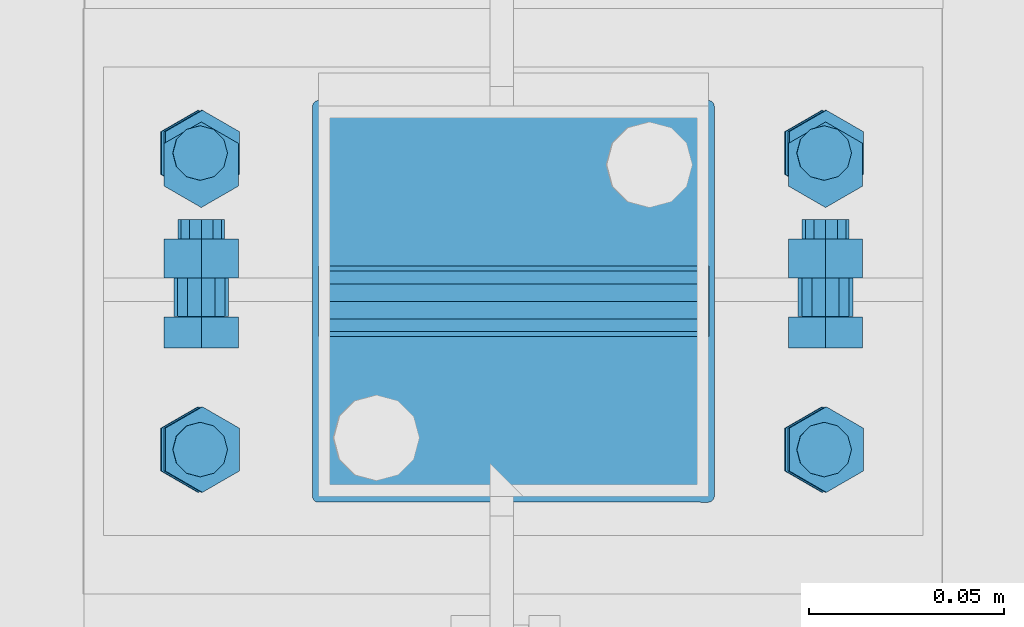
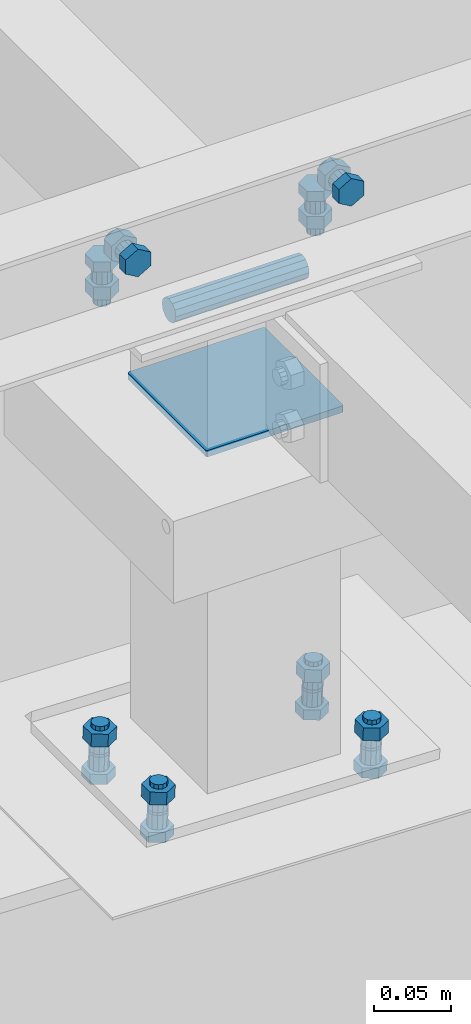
# One storey, part 235 of 3134: 6 mechanical fasteners, 4 elements without a shape of their own.
"""IFC2X3 building model written with IfcOpenShell, lengths in millimetres."""

from ifc_helpers import new_model, si_unit, frame, origin_with_axes, place, context, subcontext, project, spatial, faceted_brep, source, transform, mapped, material, type_object, element, aggregate, save


model = new_model("IFC2X3")

# Units and contexts
model_context = context("Model", 3, precision=1e-05, world=origin_with_axes())
body_context = subcontext(model_context, "Body", "Model", "MODEL_VIEW")
ifc_project = project(units=[si_unit("LENGTHUNIT", "METRE", prefix="MILLI"), si_unit("AREAUNIT", "SQUARE_METRE"), si_unit("VOLUMEUNIT", "CUBIC_METRE"), si_unit("MASSUNIT", "GRAM", prefix="KILO"), si_unit("TIMEUNIT", "SECOND"), si_unit("PLANEANGLEUNIT", "RADIAN"), si_unit("SOLIDANGLEUNIT", "STERADIAN"), si_unit("THERMODYNAMICTEMPERATUREUNIT", "DEGREE_CELSIUS"), si_unit("LUMINOUSINTENSITYUNIT", "LUMEN")], contexts=[model_context])

# Site, building, storey
site_placement = place(None, origin_with_axes())
site = spatial("IfcSite", under=ifc_project, at=site_placement, CompositionType="ELEMENT")
building_placement = place(site_placement, origin_with_axes())
building = spatial("IfcBuilding", under=site, at=building_placement, Name="Undefined", CompositionType="ELEMENT")
storey_placement = place(building_placement, origin_with_axes())
storey = spatial("IfcBuildingStorey", under=building, at=storey_placement, Name="Undefined", CompositionType="ELEMENT", Elevation=0.0)

# Assembly, mechanical fastener
assembly_1_placement = place(storey_placement, origin_with_axes())
assembly_1 = element("IfcElementAssembly", 1, at=assembly_1_placement, inside=storey, AssemblyPlace="NOTDEFINED", PredefinedType="RIGID_FRAME")
ifc_material_1 = material(Name="8.8")
mechanical_fastener_type = type_object("IfcMechanicalFastenerType", Name="Bolt assembly")
shared_shape_1 = source(origin_with_axes(), body_context, "Body", "Brep", [
    faceted_brep([(10.9696551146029, -14.0, 0.0), (5.48482755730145, -14.0, 9.5), (-5.48482755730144, -14.0, 9.5), (-10.9696551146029, -14.0, 1.34339530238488e-15), (-5.48482755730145, -14.0, -9.5), (5.48482755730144, -14.0, -9.50000000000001), (5.48482755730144, -6.0, -9.50000000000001), (-5.48482755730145, -6.0, -9.5), (-10.9696551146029, -6.0, 1.34339530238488e-15), (-5.48482755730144, -6.0, 9.5), (5.48482755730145, -6.0, 9.5), (10.9696551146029, -6.0, 0.0), (6.0, -6.0, 0.0), (5.19615242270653, -6.0, 3.00000000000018), (2.99999999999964, -6.0, 5.19615242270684), (-6.21801588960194e-13, -6.0, 6.0), (-3.00000000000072, -6.0, 5.19615242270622), (-5.19615242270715, -6.0, 2.9999999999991), (-6.0, -6.0, -1.24360317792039e-12), (-5.19615242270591, -6.0, -3.00000000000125), (-2.99999999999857, -6.0, -5.19615242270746), (1.85874342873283e-12, -6.0, -6.0), (3.00000000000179, -6.0, -5.1961524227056), (5.19615242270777, -6.0, -2.99999999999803), (5.19615242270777, 24.0, -2.99999999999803), (3.00000000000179, 24.0, -5.1961524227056), (1.85874342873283e-12, 24.0, -6.0), (-2.99999999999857, 24.0, -5.19615242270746), (-5.19615242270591, 24.0, -3.00000000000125), (-6.0, 24.0, -1.24360317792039e-12), (-5.19615242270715, 24.0, 2.9999999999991), (-3.00000000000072, 24.0, 5.19615242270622), (-6.21801588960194e-13, 24.0, 6.0), (2.99999999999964, 24.0, 5.19615242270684), (5.19615242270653, 24.0, 3.00000000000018), (6.0, 24.0, 0.0), (10.9696551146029, 6.00000000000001, 0.0), (5.48482755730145, 6.00000000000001, 9.5), (-5.48482755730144, 6.00000000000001, 9.5), (-10.9696551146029, 6.00000000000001, 1.34339530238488e-15), (-5.48482755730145, 6.00000000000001, -9.5), (5.48482755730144, 6.00000000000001, -9.50000000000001), (5.48482755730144, 16.0, -9.50000000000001), (-5.48482755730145, 16.0, -9.5), (-10.9696551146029, 16.0, 1.34339530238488e-15), (-5.48482755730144, 16.0, 9.5), (5.48482755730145, 16.0, 9.5), (10.9696551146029, 16.0, 0.0)], [[[0, 1, 2, 3, 4, 5]], [[6, 7, 8, 9, 10, 11]], [[0, 11, 10, 1]], [[1, 10, 9, 2]], [[2, 9, 8, 3]], [[3, 8, 7, 4]], [[4, 7, 6, 5]], [[5, 6, 11, 0]], [[12, 13, 14, 15, 16, 17, 18, 19, 20, 21, 22, 23]], [[24, 25, 26, 27, 28, 29, 30, 31, 32, 33, 34, 35]], [[12, 35, 34, 13]], [[13, 34, 33, 14]], [[14, 33, 32, 15]], [[15, 32, 31, 16]], [[16, 31, 30, 17]], [[17, 30, 29, 18]], [[18, 29, 28, 19]], [[19, 28, 27, 20]], [[20, 27, 26, 21]], [[21, 26, 25, 22]], [[22, 25, 24, 23]], [[23, 24, 35, 12]], [[36, 37, 38, 39, 40, 41]], [[42, 43, 44, 45, 46, 47]], [[36, 47, 46, 37]], [[37, 46, 45, 38]], [[38, 45, 44, 39]], [[39, 44, 43, 40]], [[40, 43, 42, 41]], [[41, 42, 47, 36]]]),
    faceted_brep([(7.0, -0.1, 0.0), (6.06217782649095, -0.1, 3.50000000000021), (3.49999999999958, -0.1, 6.06217782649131), (-7.25435187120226e-13, -0.1, 7.0), (-3.50000000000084, -0.1, 6.06217782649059), (-6.06217782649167, -0.1, 3.49999999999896), (-7.0, -0.1, -1.45087037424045e-12), (-6.06217782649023, -0.1, -3.50000000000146), (-3.49999999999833, -0.1, -6.06217782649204), (2.1685340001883e-12, -0.1, -7.0), (3.50000000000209, -0.1, -6.06217782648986), (6.0621778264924, -0.1, -3.4999999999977), (6.0621778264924, 6.00000000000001, -3.4999999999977), (3.50000000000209, 6.00000000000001, -6.06217782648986), (2.1685340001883e-12, 6.00000000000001, -7.0), (-3.49999999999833, 6.00000000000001, -6.06217782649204), (-6.06217782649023, 6.00000000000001, -3.50000000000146), (-7.0, 6.00000000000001, -1.45087037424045e-12), (-6.06217782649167, 6.00000000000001, 3.49999999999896), (-3.50000000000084, 6.00000000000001, 6.06217782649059), (-7.25435187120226e-13, 6.00000000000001, 7.0), (3.49999999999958, 6.00000000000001, 6.06217782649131), (6.06217782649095, 6.00000000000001, 3.50000000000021), (7.0, 6.00000000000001, 0.0), (7.0, -5.9, 0.0), (6.06217782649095, -5.9, 3.50000000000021), (3.49999999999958, -5.9, 6.06217782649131), (-7.25435187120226e-13, -5.9, 7.0), (-3.50000000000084, -5.9, 6.06217782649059), (-6.06217782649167, -5.9, 3.49999999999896), (-7.0, -5.9, -1.45087037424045e-12), (-6.06217782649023, -5.9, -3.50000000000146), (-3.49999999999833, -5.9, -6.06217782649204), (2.1685340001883e-12, -5.9, -7.0), (3.50000000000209, -5.9, -6.06217782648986), (6.0621778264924, -5.9, -3.4999999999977), (6.0621778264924, 0.0999999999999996, -3.4999999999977), (3.50000000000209, 0.0999999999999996, -6.06217782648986), (2.1685340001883e-12, 0.0999999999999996, -7.0), (-3.49999999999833, 0.0999999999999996, -6.06217782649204), (-6.06217782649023, 0.0999999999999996, -3.50000000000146), (-7.0, 0.0999999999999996, -1.45087037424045e-12), (-6.06217782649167, 0.0999999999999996, 3.49999999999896), (-3.50000000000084, 0.0999999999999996, 6.06217782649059), (-7.25435187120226e-13, 0.0999999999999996, 7.0), (3.49999999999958, 0.0999999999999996, 6.06217782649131), (6.06217782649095, 0.0999999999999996, 3.50000000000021), (7.0, 0.0999999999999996, 0.0)], [[[0, 1, 2, 3, 4, 5, 6, 7, 8, 9, 10, 11]], [[12, 13, 14, 15, 16, 17, 18, 19, 20, 21, 22, 23]], [[0, 23, 22, 1]], [[1, 22, 21, 2]], [[2, 21, 20, 3]], [[3, 20, 19, 4]], [[4, 19, 18, 5]], [[5, 18, 17, 6]], [[6, 17, 16, 7]], [[7, 16, 15, 8]], [[8, 15, 14, 9]], [[9, 14, 13, 10]], [[10, 13, 12, 11]], [[11, 12, 23, 0]], [[24, 25, 26, 27, 28, 29, 30, 31, 32, 33, 34, 35]], [[36, 37, 38, 39, 40, 41, 42, 43, 44, 45, 46, 47]], [[24, 47, 46, 25]], [[25, 46, 45, 26]], [[26, 45, 44, 27]], [[27, 44, 43, 28]], [[28, 43, 42, 29]], [[29, 42, 41, 30]], [[30, 41, 40, 31]], [[31, 40, 39, 32]], [[32, 39, 38, 33]], [[33, 38, 37, 34]], [[34, 37, 36, 35]], [[35, 36, 47, 24]]]),
])
mechanical_fastener_1_placement = place(assembly_1_placement, frame((23191.0, 55490.0, 10865.0), z_axis=(1.0, 0.0, 0.0), x_axis=(0.0, -1.0, 0.0)))
mechanical_fastener_1 = element("IfcMechanicalFastener", 2, at=mechanical_fastener_1_placement, type_object=mechanical_fastener_type, material=ifc_material_1, Name="Bolt assembly", NominalDiameter=12.0, NominalLength=30.0, context=body_context, shape_type="MappedRepresentation", body=[
    mapped(shared_shape_1, transform((0.0, -5.32963895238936e-10, -79.9999999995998))),
    mapped(shared_shape_1, transform((0.0, 5.3114490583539e-10, 79.9999999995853))),
])

assembly_2_placement = place(storey_placement, origin_with_axes())
assembly_2 = element("IfcElementAssembly", 3, at=assembly_2_placement, inside=storey, AssemblyPlace="NOTDEFINED", PredefinedType="RIGID_FRAME")
shared_shape_2 = source(origin_with_axes(), body_context, "Body", "Brep", [
    faceted_brep([(7.0, 13.0000253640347, 0.0), (6.06217782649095, 13.0000253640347, 3.50000000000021), (3.49999999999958, 13.0000253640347, 6.06217782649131), (-7.25435187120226e-13, 13.0000253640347, 7.0), (-3.50000000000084, 13.0000253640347, 6.06217782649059), (-6.06217782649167, 13.0000253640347, 3.49999999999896), (-7.0, 13.0000253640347, -1.45087037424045e-12), (-6.06217782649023, 13.0000253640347, -3.50000000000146), (-3.49999999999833, 13.0000253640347, -6.06217782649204), (2.1685340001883e-12, 13.0000253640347, -7.0), (3.50000000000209, 13.0000253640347, -6.06217782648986), (6.0621778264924, 13.0000253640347, -3.4999999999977), (6.0621778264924, 15.0999999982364, -3.4999999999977), (3.50000000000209, 15.0999999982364, -6.06217782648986), (2.1685340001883e-12, 15.0999999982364, -7.0), (-3.49999999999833, 15.0999999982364, -6.06217782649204), (-6.06217782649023, 15.0999999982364, -3.50000000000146), (-7.0, 15.0999999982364, -1.45087037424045e-12), (-6.06217782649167, 15.0999999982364, 3.49999999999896), (-3.50000000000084, 15.0999999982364, 6.06217782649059), (-7.25435187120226e-13, 15.0999999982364, 7.0), (3.49999999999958, 15.0999999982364, 6.06217782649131), (6.06217782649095, 15.0999999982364, 3.50000000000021), (7.0, 15.0999999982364, 0.0)], [[[0, 1, 2, 3, 4, 5, 6, 7, 8, 9, 10, 11]], [[12, 13, 14, 15, 16, 17, 18, 19, 20, 21, 22, 23]], [[0, 23, 22, 1]], [[1, 22, 21, 2]], [[2, 21, 20, 3]], [[3, 20, 19, 4]], [[4, 19, 18, 5]], [[5, 18, 17, 6]], [[6, 17, 16, 7]], [[7, 16, 15, 8]], [[8, 15, 14, 9]], [[9, 14, 13, 10]], [[10, 13, 12, 11]], [[11, 12, 23, 0]]]),
])
mechanical_fastener_2_placement = place(assembly_2_placement, frame((23190.2251187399, 55493.0, 10467.1972055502), z_axis=(-0.99951962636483, 0.0, 0.0309922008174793), x_axis=(0.0, -1.0, 0.0)))
mechanical_fastener_2 = element("IfcMechanicalFastener", 4, at=mechanical_fastener_2_placement, type_object=mechanical_fastener_type, material=ifc_material_1, Name="Bolt assembly", NominalDiameter=12.0, NominalLength=2.0, context=body_context, shape_type="MappedRepresentation", body=[
    mapped(shared_shape_2, transform((0.0, -5.32963895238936e-10, -79.9999999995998))),
    mapped(shared_shape_2, transform((76.0, -5.32963895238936e-10, -79.9999999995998))),
    mapped(shared_shape_2, transform((0.0, 5.3114490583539e-10, 79.9999999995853))),
    mapped(shared_shape_2, transform((76.0, 5.3114490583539e-10, 79.9999999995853))),
])
aggregate(assembly_2, [mechanical_fastener_2])

# Assembly, mechanical fasteners
assembly_3_placement = place(storey_placement, origin_with_axes())
assembly_3 = element("IfcElementAssembly", 5, at=assembly_3_placement, inside=storey, AssemblyPlace="NOTDEFINED", PredefinedType="RIGID_FRAME")
shared_shape_3 = source(origin_with_axes(), body_context, "Body", "Brep", [
    faceted_brep([(9.0, -50.0, 0.0), (7.79422863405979, -50.0, 4.50000000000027), (4.49999999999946, -50.0, 7.79422863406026), (-9.3270238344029e-13, -50.0, 9.0), (-4.50000000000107, -50.0, 7.79422863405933), (-7.79422863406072, -50.0, 4.49999999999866), (-9.0, -50.0, -1.86540476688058e-12), (-7.79422863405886, -50.0, -4.50000000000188), (-4.49999999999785, -50.0, -7.79422863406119), (2.78811514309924e-12, -50.0, -9.0), (4.50000000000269, -50.0, -7.7942286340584), (7.79422863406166, -50.0, -4.49999999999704), (7.79422863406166, 50.1, -4.49999999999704), (4.50000000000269, 50.1, -7.7942286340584), (2.78811514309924e-12, 50.1, -9.0), (-4.49999999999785, 50.1, -7.79422863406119), (-7.79422863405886, 50.1, -4.50000000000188), (-9.0, 50.1, -1.86540476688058e-12), (-7.79422863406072, 50.1, 4.49999999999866), (-4.50000000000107, 50.1, 7.79422863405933), (-9.3270238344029e-13, 50.1, 9.0), (4.49999999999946, 50.1, 7.79422863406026), (7.79422863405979, 50.1, 4.50000000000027), (9.0, 50.1, 0.0)], [[[0, 1, 2, 3, 4, 5, 6, 7, 8, 9, 10, 11]], [[12, 13, 14, 15, 16, 17, 18, 19, 20, 21, 22, 23]], [[0, 23, 22, 1]], [[1, 22, 21, 2]], [[2, 21, 20, 3]], [[3, 20, 19, 4]], [[4, 19, 18, 5]], [[5, 18, 17, 6]], [[6, 17, 16, 7]], [[7, 16, 15, 8]], [[8, 15, 14, 9]], [[9, 14, 13, 10]], [[10, 13, 12, 11]], [[11, 12, 23, 0]]]),
])
mechanical_fastener_3_placement = place(assembly_3_placement, frame((23191.0, 55455.0, 10845.0), z_axis=(0.0, 1.0, 0.0), x_axis=(0.0, 0.0, 1.0)))
mechanical_fastener_3 = element("IfcMechanicalFastener", 6, at=mechanical_fastener_3_placement, type_object=mechanical_fastener_type, material=ifc_material_1, Name="Bolt assembly", NominalDiameter=16.0, NominalLength=100.0, context=body_context, shape_type="MappedRepresentation", body=[
    mapped(shared_shape_3, transform((0.0, 0.0, 0.0))),
])
ifc_material_2 = material(Name="6.8")
shared_shape_4 = source(origin_with_axes(), body_context, "Body", "Brep", [
    faceted_brep([(51.5, 1.36424205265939e-12, 50.0), (51.3858192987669, 1.36424205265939e-12, 50.5740251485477), (51.0606601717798, 1.36424205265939e-12, 51.0606601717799), (50.5740251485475, 1.36424205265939e-12, 51.385819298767), (-50.0000000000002, 1.36424205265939e-12, 51.5), (-50.7500000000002, 1.36424205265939e-12, 51.2990381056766), (-51.2990381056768, 1.36424205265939e-12, 50.7499999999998), (-51.5, 1.36424205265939e-12, 49.9999999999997), (-51.5, 1.36424205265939e-12, -50.0000000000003), (-51.2990381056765, 1.36424205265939e-12, -50.7500000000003), (-50.7499999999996, 1.36424205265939e-12, -51.2990381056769), (-49.9999999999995, 1.36424205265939e-12, -51.5), (50.0000000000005, 1.36424205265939e-12, -51.5), (50.7500000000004, 1.36424205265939e-12, -51.2990381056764), (51.2990381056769, 1.36424205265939e-12, -50.7499999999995), (51.5, 1.36424205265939e-12, -49.9999999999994), (51.5, 5.10000000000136, -49.9999999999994), (51.2990381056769, 5.10000000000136, -50.7499999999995), (50.7500000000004, 5.10000000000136, -51.2990381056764), (50.0000000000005, 5.10000000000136, -51.5), (-49.9999999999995, 5.10000000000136, -51.5), (-50.7499999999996, 5.10000000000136, -51.2990381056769), (-51.2990381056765, 5.10000000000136, -50.7500000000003), (-51.5, 5.10000000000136, -50.0000000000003), (-51.5, 5.10000000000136, 49.9999999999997), (-51.2990381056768, 5.10000000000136, 50.7499999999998), (-50.7500000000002, 5.10000000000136, 51.2990381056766), (-50.0000000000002, 5.10000000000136, 51.5), (50.5740251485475, 5.10000000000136, 51.385819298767), (51.0606601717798, 5.10000000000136, 51.0606601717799), (51.3858192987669, 5.10000000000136, 50.5740251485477), (51.5, 5.10000000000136, 50.0)], [[[0, 1, 2, 3, 4, 5, 6, 7, 8, 9, 10, 11, 12, 13, 14, 15]], [[16, 17, 18, 19, 20, 21, 22, 23, 24, 25, 26, 27, 28, 29, 30, 31]], [[0, 31, 30, 1]], [[1, 30, 29, 2]], [[2, 29, 28, 3]], [[3, 28, 27, 4]], [[4, 27, 26, 5]], [[5, 26, 25, 6]], [[6, 25, 24, 7]], [[7, 24, 23, 8]], [[8, 23, 22, 9]], [[9, 22, 21, 10]], [[10, 21, 20, 11]], [[11, 20, 19, 12]], [[12, 19, 18, 13]], [[13, 18, 17, 14]], [[14, 17, 16, 15]], [[15, 16, 31, 0]]]),
])
mechanical_fastener_4_placement = place(assembly_3_placement, frame((23191.0, 55455.0, 10765.0), z_axis=(0.0, -1.0, 0.0), x_axis=(-1.0, 0.0, 0.0)))
mechanical_fastener_4 = element("IfcMechanicalFastener", 7, at=mechanical_fastener_4_placement, type_object=mechanical_fastener_type, material=ifc_material_2, Name="Bolt assembly", NominalDiameter=10.0, NominalLength=5.0, context=body_context, shape_type="MappedRepresentation", body=[
    mapped(shared_shape_4, transform((0.0, 0.0, 0.0))),
])
aggregate(assembly_3, [mechanical_fastener_4, mechanical_fastener_3])

# Mechanical fastener
shared_shape_5 = source(origin_with_axes(), body_context, "Body", "Brep", [
    faceted_brep([(10.9696551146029, -12.0, 0.0), (5.48482755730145, -12.0, 9.5), (-5.48482755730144, -12.0, 9.5), (-10.9696551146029, -12.0, 1.34339530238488e-15), (-5.48482755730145, -12.0, -9.5), (5.48482755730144, -12.0, -9.50000000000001), (5.48482755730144, -4.0, -9.50000000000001), (-5.48482755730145, -4.0, -9.5), (-10.9696551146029, -4.0, 1.34339530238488e-15), (-5.48482755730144, -4.0, 9.5), (5.48482755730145, -4.0, 9.5), (10.9696551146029, -4.0, 0.0), (6.0, -4.0, 0.0), (5.19615242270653, -4.0, 3.00000000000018), (2.99999999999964, -4.0, 5.19615242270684), (-6.21801588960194e-13, -4.0, 6.0), (-3.00000000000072, -4.0, 5.19615242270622), (-5.19615242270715, -4.0, 2.9999999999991), (-6.0, -4.0, -1.24360317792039e-12), (-5.19615242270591, -4.0, -3.00000000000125), (-2.99999999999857, -4.0, -5.19615242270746), (1.85874342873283e-12, -4.0, -6.0), (3.00000000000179, -4.0, -5.1961524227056), (5.19615242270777, -4.0, -2.99999999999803), (5.19615242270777, 21.0, -2.99999999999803), (3.00000000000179, 21.0, -5.1961524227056), (1.85874342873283e-12, 21.0, -6.0), (-2.99999999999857, 21.0, -5.19615242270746), (-5.19615242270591, 21.0, -3.00000000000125), (-6.0, 21.0, -1.24360317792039e-12), (-5.19615242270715, 21.0, 2.9999999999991), (-3.00000000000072, 21.0, 5.19615242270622), (-6.21801588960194e-13, 21.0, 6.0), (2.99999999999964, 21.0, 5.19615242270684), (5.19615242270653, 21.0, 3.00000000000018), (6.0, 21.0, 0.0), (10.9696551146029, 6.00000000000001, 0.0), (5.48482755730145, 6.00000000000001, 9.5), (-5.48482755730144, 6.00000000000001, 9.5), (-10.9696551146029, 6.00000000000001, 1.34339530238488e-15), (-5.48482755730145, 6.00000000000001, -9.5), (5.48482755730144, 6.00000000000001, -9.50000000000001), (5.48482755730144, 16.0, -9.50000000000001), (-5.48482755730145, 16.0, -9.5), (-10.9696551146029, 16.0, 1.34339530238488e-15), (-5.48482755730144, 16.0, 9.5), (5.48482755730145, 16.0, 9.5), (10.9696551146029, 16.0, 0.0)], [[[0, 1, 2, 3, 4, 5]], [[6, 7, 8, 9, 10, 11]], [[0, 11, 10, 1]], [[1, 10, 9, 2]], [[2, 9, 8, 3]], [[3, 8, 7, 4]], [[4, 7, 6, 5]], [[5, 6, 11, 0]], [[12, 13, 14, 15, 16, 17, 18, 19, 20, 21, 22, 23]], [[24, 25, 26, 27, 28, 29, 30, 31, 32, 33, 34, 35]], [[12, 35, 34, 13]], [[13, 34, 33, 14]], [[14, 33, 32, 15]], [[15, 32, 31, 16]], [[16, 31, 30, 17]], [[17, 30, 29, 18]], [[18, 29, 28, 19]], [[19, 28, 27, 20]], [[20, 27, 26, 21]], [[21, 26, 25, 22]], [[22, 25, 24, 23]], [[23, 24, 35, 12]], [[36, 37, 38, 39, 40, 41]], [[42, 43, 44, 45, 46, 47]], [[36, 47, 46, 37]], [[37, 46, 45, 38]], [[38, 45, 44, 39]], [[39, 44, 43, 40]], [[40, 43, 42, 41]], [[41, 42, 47, 36]]]),
    faceted_brep([(7.0, -3.9, 0.0), (6.06217782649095, -3.9, 3.50000000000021), (3.49999999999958, -3.9, 6.06217782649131), (-7.25435187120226e-13, -3.9, 7.0), (-3.50000000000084, -3.9, 6.06217782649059), (-6.06217782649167, -3.9, 3.49999999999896), (-7.0, -3.9, -1.45087037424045e-12), (-6.06217782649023, -3.9, -3.50000000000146), (-3.49999999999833, -3.9, -6.06217782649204), (2.1685340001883e-12, -3.9, -7.0), (3.50000000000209, -3.9, -6.06217782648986), (6.0621778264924, -3.9, -3.4999999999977), (6.0621778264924, 0.0999999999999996, -3.4999999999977), (3.50000000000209, 0.0999999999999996, -6.06217782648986), (2.1685340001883e-12, 0.0999999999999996, -7.0), (-3.49999999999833, 0.0999999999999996, -6.06217782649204), (-6.06217782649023, 0.0999999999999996, -3.50000000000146), (-7.0, 0.0999999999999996, -1.45087037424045e-12), (-6.06217782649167, 0.0999999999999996, 3.49999999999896), (-3.50000000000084, 0.0999999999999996, 6.06217782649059), (-7.25435187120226e-13, 0.0999999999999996, 7.0), (3.49999999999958, 0.0999999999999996, 6.06217782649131), (6.06217782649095, 0.0999999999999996, 3.50000000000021), (7.0, 0.0999999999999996, 0.0), (7.0, -0.1, 0.0), (6.06217782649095, -0.1, 3.50000000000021), (3.49999999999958, -0.1, 6.06217782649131), (-7.25435187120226e-13, -0.1, 7.0), (-3.50000000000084, -0.1, 6.06217782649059), (-6.06217782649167, -0.1, 3.49999999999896), (-7.0, -0.1, -1.45087037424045e-12), (-6.06217782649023, -0.1, -3.50000000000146), (-3.49999999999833, -0.1, -6.06217782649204), (2.1685340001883e-12, -0.1, -7.0), (3.50000000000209, -0.1, -6.06217782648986), (6.0621778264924, -0.1, -3.4999999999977), (6.0621778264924, 6.00000000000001, -3.4999999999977), (3.50000000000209, 6.00000000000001, -6.06217782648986), (2.1685340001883e-12, 6.00000000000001, -7.0), (-3.49999999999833, 6.00000000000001, -6.06217782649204), (-6.06217782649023, 6.00000000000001, -3.50000000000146), (-7.0, 6.00000000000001, -1.45087037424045e-12), (-6.06217782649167, 6.00000000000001, 3.49999999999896), (-3.50000000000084, 6.00000000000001, 6.06217782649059), (-7.25435187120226e-13, 6.00000000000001, 7.0), (3.49999999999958, 6.00000000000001, 6.06217782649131), (6.06217782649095, 6.00000000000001, 3.50000000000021), (7.0, 6.00000000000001, 0.0)], [[[0, 1, 2, 3, 4, 5, 6, 7, 8, 9, 10, 11]], [[12, 13, 14, 15, 16, 17, 18, 19, 20, 21, 22, 23]], [[0, 23, 22, 1]], [[1, 22, 21, 2]], [[2, 21, 20, 3]], [[3, 20, 19, 4]], [[4, 19, 18, 5]], [[5, 18, 17, 6]], [[6, 17, 16, 7]], [[7, 16, 15, 8]], [[8, 15, 14, 9]], [[9, 14, 13, 10]], [[10, 13, 12, 11]], [[11, 12, 23, 0]], [[24, 25, 26, 27, 28, 29, 30, 31, 32, 33, 34, 35]], [[36, 37, 38, 39, 40, 41, 42, 43, 44, 45, 46, 47]], [[24, 47, 46, 25]], [[25, 46, 45, 26]], [[26, 45, 44, 27]], [[27, 44, 43, 28]], [[28, 43, 42, 29]], [[29, 42, 41, 30]], [[30, 41, 40, 31]], [[31, 40, 39, 32]], [[32, 39, 38, 33]], [[33, 38, 37, 34]], [[34, 37, 36, 35]], [[35, 36, 47, 24]]]),
])
mechanical_fastener_5_placement = place(assembly_1_placement, frame((23191.0, 55455.0, 10900.0), z_axis=(1.0, 0.0, 0.0), x_axis=(0.0, 0.0, -1.0)))
mechanical_fastener_5 = element("IfcMechanicalFastener", 8, at=mechanical_fastener_5_placement, type_object=mechanical_fastener_type, material=ifc_material_1, Name="Bolt assembly", NominalDiameter=12.0, NominalLength=25.0, context=body_context, shape_type="MappedRepresentation", body=[
    mapped(shared_shape_5, transform((0.0, -5.32963895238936e-10, -79.9999999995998))),
    mapped(shared_shape_5, transform((0.0, 5.3114490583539e-10, 79.9999999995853))),
])

aggregate(assembly_1, [mechanical_fastener_5, mechanical_fastener_1])

# Assembly, mechanical fastener
assembly_4_placement = place(storey_placement, origin_with_axes())
assembly_4 = element("IfcElementAssembly", 9, at=assembly_4_placement, inside=storey, Name="IPE330", AssemblyPlace="NOTDEFINED", PredefinedType="RIGID_FRAME")
shared_shape_6 = source(origin_with_axes(), body_context, "Body", "Brep", [
    faceted_brep([(10.9696551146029, -6.48983494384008, 0.0), (5.48482755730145, -6.48983494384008, 9.5), (-5.48482755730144, -6.48983494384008, 9.5), (-10.9696551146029, -6.48983494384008, 1.34339530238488e-15), (-5.48482755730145, -6.48983494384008, -9.5), (5.48482755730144, -6.48983494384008, -9.50000000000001), (5.48482755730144, 1.51016505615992, -9.50000000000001), (-5.48482755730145, 1.51016505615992, -9.5), (-10.9696551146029, 1.51016505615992, 1.34339530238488e-15), (-5.48482755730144, 1.51016505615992, 9.5), (5.48482755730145, 1.51016505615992, 9.5), (10.9696551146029, 1.51016505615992, 0.0), (6.0, 1.51016505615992, 0.0), (5.19615242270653, 1.51016505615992, 3.00000000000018), (2.99999999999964, 1.51016505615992, 5.19615242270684), (-6.21801588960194e-13, 1.51016505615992, 6.0), (-3.00000000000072, 1.51016505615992, 5.19615242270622), (-5.19615242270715, 1.51016505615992, 2.9999999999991), (-6.0, 1.51016505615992, -1.24360317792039e-12), (-5.19615242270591, 1.51016505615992, -3.00000000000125), (-2.99999999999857, 1.51016505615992, -5.19615242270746), (1.85874342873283e-12, 1.51016505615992, -6.0), (3.00000000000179, 1.51016505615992, -5.1961524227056), (5.19615242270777, 1.51016505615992, -2.99999999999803), (5.19615242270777, 36.5101650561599, -2.99999999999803), (3.00000000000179, 36.5101650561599, -5.1961524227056), (1.85874342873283e-12, 36.5101650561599, -6.0), (-2.99999999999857, 36.5101650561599, -5.19615242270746), (-5.19615242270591, 36.5101650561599, -3.00000000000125), (-6.0, 36.5101650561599, -1.24360317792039e-12), (-5.19615242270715, 36.5101650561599, 2.9999999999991), (-3.00000000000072, 36.5101650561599, 5.19615242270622), (-6.21801588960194e-13, 36.5101650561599, 6.0), (2.99999999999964, 36.5101650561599, 5.19615242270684), (5.19615242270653, 36.5101650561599, 3.00000000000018), (6.0, 36.5101650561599, 0.0), (10.9696551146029, 23.0039050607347, 0.0), (5.48482755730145, 23.0039050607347, 9.5), (-5.48482755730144, 23.0039050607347, 9.5), (-10.9696551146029, 23.0039050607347, 1.34339530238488e-15), (-5.48482755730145, 23.0039050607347, -9.5), (5.48482755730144, 23.0039050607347, -9.50000000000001), (5.48482755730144, 33.0039050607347, -9.50000000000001), (-5.48482755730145, 33.0039050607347, -9.5), (-10.9696551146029, 33.0039050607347, 1.34339530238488e-15), (-5.48482755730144, 33.0039050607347, 9.5), (5.48482755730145, 33.0039050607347, 9.5), (10.9696551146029, 33.0039050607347, 0.0)], [[[0, 1, 2, 3, 4, 5]], [[6, 7, 8, 9, 10, 11]], [[0, 11, 10, 1]], [[1, 10, 9, 2]], [[2, 9, 8, 3]], [[3, 8, 7, 4]], [[4, 7, 6, 5]], [[5, 6, 11, 0]], [[12, 13, 14, 15, 16, 17, 18, 19, 20, 21, 22, 23]], [[24, 25, 26, 27, 28, 29, 30, 31, 32, 33, 34, 35]], [[12, 35, 34, 13]], [[13, 34, 33, 14]], [[14, 33, 32, 15]], [[15, 32, 31, 16]], [[16, 31, 30, 17]], [[17, 30, 29, 18]], [[18, 29, 28, 19]], [[19, 28, 27, 20]], [[20, 27, 26, 21]], [[21, 26, 25, 22]], [[22, 25, 24, 23]], [[23, 24, 35, 12]], [[36, 37, 38, 39, 40, 41]], [[42, 43, 44, 45, 46, 47]], [[36, 47, 46, 37]], [[37, 46, 45, 38]], [[38, 45, 44, 39]], [[39, 44, 43, 40]], [[40, 43, 42, 41]], [[41, 42, 47, 36]]]),
    faceted_brep([(7.0, 14.9039050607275, 0.0), (6.06217782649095, 14.9039050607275, 3.50000000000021), (3.49999999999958, 14.9039050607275, 6.06217782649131), (-7.25435187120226e-13, 14.9039050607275, 7.0), (-3.50000000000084, 14.9039050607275, 6.06217782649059), (-6.06217782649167, 14.9039050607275, 3.49999999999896), (-7.0, 14.9039050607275, -1.45087037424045e-12), (-6.06217782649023, 14.9039050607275, -3.50000000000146), (-3.49999999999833, 14.9039050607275, -6.06217782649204), (2.1685340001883e-12, 14.9039050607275, -7.0), (3.50000000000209, 14.9039050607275, -6.06217782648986), (6.0621778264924, 14.9039050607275, -3.4999999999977), (6.0621778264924, 23.0039050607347, -3.4999999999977), (3.50000000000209, 23.0039050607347, -6.06217782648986), (2.1685340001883e-12, 23.0039050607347, -7.0), (-3.49999999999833, 23.0039050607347, -6.06217782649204), (-6.06217782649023, 23.0039050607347, -3.50000000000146), (-7.0, 23.0039050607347, -1.45087037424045e-12), (-6.06217782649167, 23.0039050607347, 3.49999999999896), (-3.50000000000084, 23.0039050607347, 6.06217782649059), (-7.25435187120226e-13, 23.0039050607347, 7.0), (3.49999999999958, 23.0039050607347, 6.06217782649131), (6.06217782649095, 23.0039050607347, 3.50000000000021), (7.0, 23.0039050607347, 0.0), (7.0, 1.61016505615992, 0.0), (6.06217782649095, 1.61016505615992, 3.50000000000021), (3.49999999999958, 1.61016505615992, 6.06217782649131), (-7.25435187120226e-13, 1.61016505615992, 7.0), (-3.50000000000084, 1.61016505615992, 6.06217782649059), (-6.06217782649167, 1.61016505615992, 3.49999999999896), (-7.0, 1.61016505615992, -1.45087037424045e-12), (-6.06217782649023, 1.61016505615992, -3.50000000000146), (-3.49999999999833, 1.61016505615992, -6.06217782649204), (2.1685340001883e-12, 1.61016505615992, -7.0), (3.50000000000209, 1.61016505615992, -6.06217782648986), (6.0621778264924, 1.61016505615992, -3.4999999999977), (6.0621778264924, 13.1101650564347, -3.4999999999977), (3.50000000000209, 13.1101650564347, -6.06217782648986), (2.1685340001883e-12, 13.1101650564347, -7.0), (-3.49999999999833, 13.1101650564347, -6.06217782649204), (-6.06217782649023, 13.1101650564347, -3.50000000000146), (-7.0, 13.1101650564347, -1.45087037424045e-12), (-6.06217782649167, 13.1101650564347, 3.49999999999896), (-3.50000000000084, 13.1101650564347, 6.06217782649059), (-7.25435187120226e-13, 13.1101650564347, 7.0), (3.49999999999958, 13.1101650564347, 6.06217782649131), (6.06217782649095, 13.1101650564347, 3.50000000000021), (7.0, 13.1101650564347, 0.0)], [[[0, 1, 2, 3, 4, 5, 6, 7, 8, 9, 10, 11]], [[12, 13, 14, 15, 16, 17, 18, 19, 20, 21, 22, 23]], [[0, 23, 22, 1]], [[1, 22, 21, 2]], [[2, 21, 20, 3]], [[3, 20, 19, 4]], [[4, 19, 18, 5]], [[5, 18, 17, 6]], [[6, 17, 16, 7]], [[7, 16, 15, 8]], [[8, 15, 14, 9]], [[9, 14, 13, 10]], [[10, 13, 12, 11]], [[11, 12, 23, 0]], [[24, 25, 26, 27, 28, 29, 30, 31, 32, 33, 34, 35]], [[36, 37, 38, 39, 40, 41, 42, 43, 44, 45, 46, 47]], [[24, 47, 46, 25]], [[25, 46, 45, 26]], [[26, 45, 44, 27]], [[27, 44, 43, 28]], [[28, 43, 42, 29]], [[29, 42, 41, 30]], [[30, 41, 40, 31]], [[31, 40, 39, 32]], [[32, 39, 38, 33]], [[33, 38, 37, 34]], [[34, 37, 36, 35]], [[35, 36, 47, 24]]]),
])
mechanical_fastener_6_placement = place(assembly_4_placement, frame((23190.2251187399, 55493.0, 10467.1972055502), z_axis=(-0.99951962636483, 0.0, 0.0309922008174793), x_axis=(0.0, -1.0, 0.0)))
mechanical_fastener_6 = element("IfcMechanicalFastener", 10, at=mechanical_fastener_6_placement, type_object=mechanical_fastener_type, material=ifc_material_1, Name="Bolt assembly", NominalDiameter=12.0, NominalLength=35.0, context=body_context, shape_type="MappedRepresentation", body=[
    mapped(shared_shape_6, transform((0.0, -5.32963895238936e-10, -79.9999999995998))),
    mapped(shared_shape_6, transform((76.0, -5.32963895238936e-10, -79.9999999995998))),
    mapped(shared_shape_6, transform((0.0, 5.3114490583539e-10, 79.9999999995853))),
    mapped(shared_shape_6, transform((76.0, 5.3114490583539e-10, 79.9999999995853))),
])
aggregate(assembly_4, [mechanical_fastener_6])

save(model, "model.ifc")
